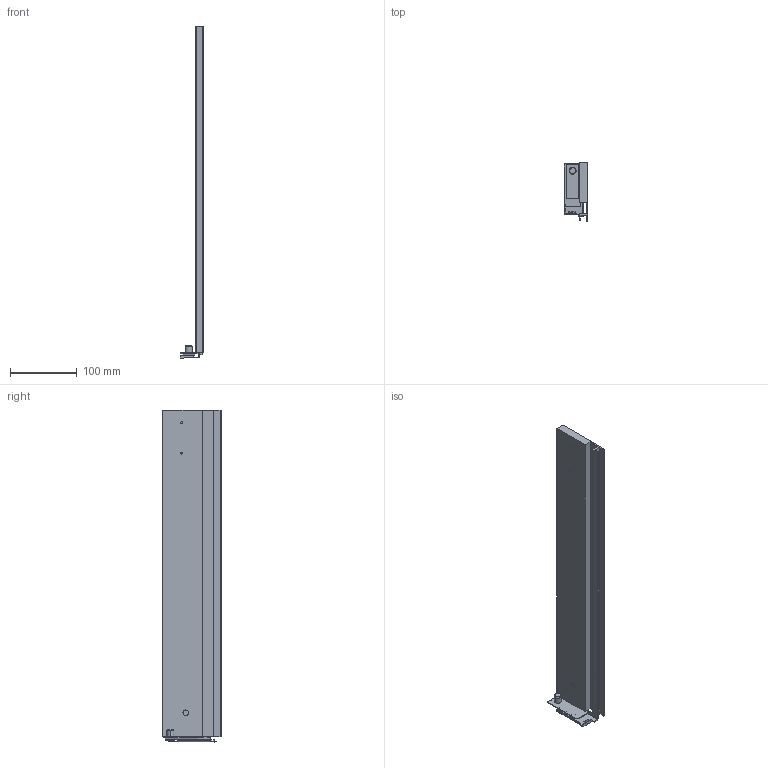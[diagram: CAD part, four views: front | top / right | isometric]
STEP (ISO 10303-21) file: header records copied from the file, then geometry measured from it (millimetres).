
FILE_DESCRIPTION (( 'STEP AP214' ), '1' );
FILE_NAME ('Vionaro_Alu-Zarge_H89_NL500_RE.STEP', '2014-08-18T10:03:07', ( '' ), ( '' ), 'SwSTEP 2.0', 'SolidWorks 2013', '' );
FILE_SCHEMA (( 'AUTOMOTIVE_DESIGN' ));
Length unit declared in the file: millimetre
Products named in the file (1): Vionaro_Alu-Zarge_H89_NL500_RE
Bounding box: 35.6 x 89 x 497.9 mm (x, y, z)
Volume: 445143.2 mm3; surface area: 127777.4 mm2
Topology: 1 solids, 1 shells, 101 faces, 272 edges, 178 vertices
Faces by surface type: plane 81, cylinder 16, cone 4
Entity records: 3162 total; most frequent: CARTESIAN_POINT 558, ORIENTED_EDGE 544, DIRECTION 512, EDGE_CURVE 272, VECTOR 232, LINE 232, VERTEX_POINT 178, AXIS2_PLACEMENT_3D 140
